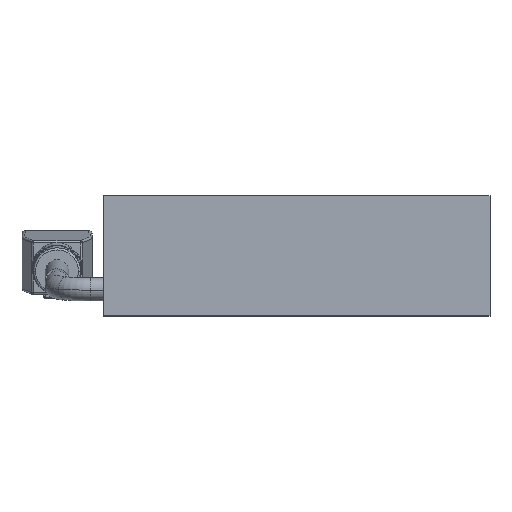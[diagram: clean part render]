
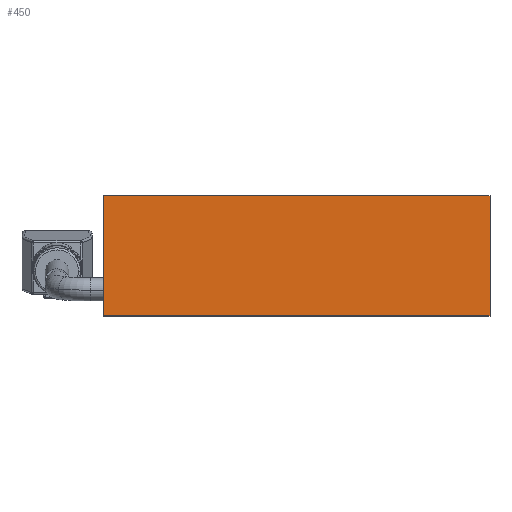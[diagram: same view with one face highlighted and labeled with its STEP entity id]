
A CAD part, top view. The second image highlights one B-rep face of the part: STEP entity #450.
In plain terms, the highlighted planar face has unit normal (0, 0, 1).
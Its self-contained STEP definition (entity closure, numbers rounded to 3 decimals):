
#45=DIRECTION('',(0.,-1.,0.));
#46=VECTOR('',#45,18.);
#47=CARTESIAN_POINT('',(-29.,18.,15.));
#48=LINE('',#47,#46);
#75=DIRECTION('',(-1.,0.,0.));
#76=VECTOR('',#75,58.);
#77=CARTESIAN_POINT('',(29.,0.,15.));
#78=LINE('',#77,#76);
#79=DIRECTION('',(0.,-1.,0.));
#80=VECTOR('',#79,18.);
#81=CARTESIAN_POINT('',(29.,18.,15.));
#82=LINE('',#81,#80);
#95=DIRECTION('',(-1.,0.,0.));
#96=VECTOR('',#95,58.);
#97=CARTESIAN_POINT('',(29.,18.,15.));
#98=LINE('',#97,#96);
#269=CARTESIAN_POINT('',(-29.,0.,15.));
#271=VERTEX_POINT('',#269);
#273=CARTESIAN_POINT('',(29.,0.,15.));
#274=VERTEX_POINT('',#273);
#295=CARTESIAN_POINT('',(-29.,18.,15.));
#296=VERTEX_POINT('',#295);
#303=CARTESIAN_POINT('',(29.,18.,15.));
#304=VERTEX_POINT('',#303);
#438=CARTESIAN_POINT('',(-29.,0.,15.));
#439=DIRECTION('',(0.,0.,1.));
#440=DIRECTION('',(1.,0.,0.));
#441=AXIS2_PLACEMENT_3D('',#438,#439,#440);
#442=PLANE('',#441);
#443=ORIENTED_EDGE('',*,*,#356,.T.);
#444=ORIENTED_EDGE('',*,*,#399,.F.);
#446=ORIENTED_EDGE('',*,*,#445,.F.);
#447=ORIENTED_EDGE('',*,*,#430,.T.);
#448=EDGE_LOOP('',(#443,#444,#446,#447));
#449=FACE_OUTER_BOUND('',#448,.F.);
#356=EDGE_CURVE('',#274,#271,#78,.T.);
#399=EDGE_CURVE('',#296,#271,#48,.T.);
#430=EDGE_CURVE('',#304,#274,#82,.T.);
#445=EDGE_CURVE('',#304,#296,#98,.T.);
#450=ADVANCED_FACE('',(#449),#442,.T.);
